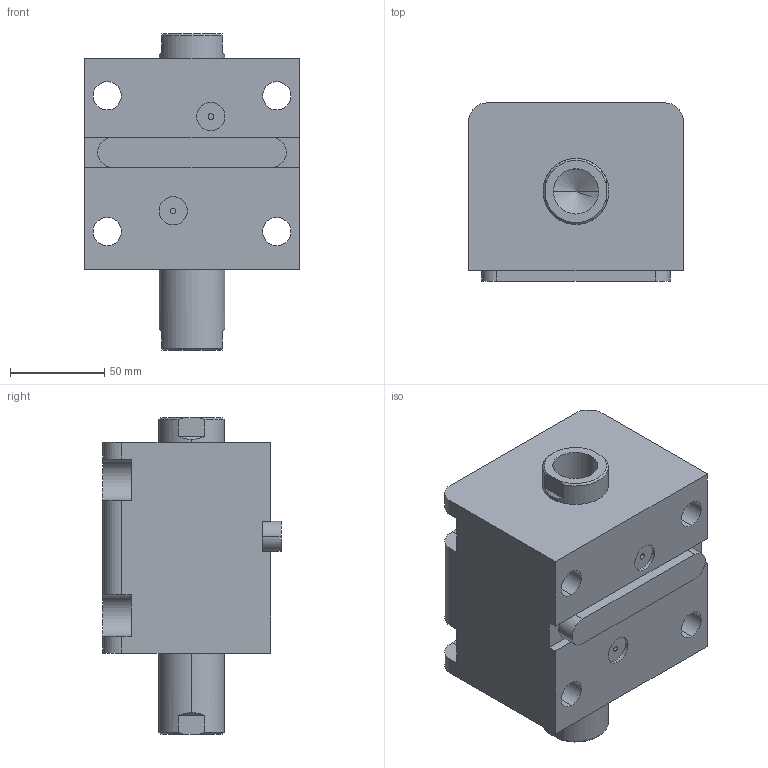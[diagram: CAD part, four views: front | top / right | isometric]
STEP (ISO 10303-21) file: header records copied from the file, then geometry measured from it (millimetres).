
FILE_DESCRIPTION (( 'STEP AP203' ), '1' );
FILE_NAME ('HTB-LWM63-30N.STEP', '2020-12-25T03:41:30', ( '微软用户' ), ( '微软中国' ), 'SwSTEP 2.0', 'SolidWorks 2012', '' );
FILE_SCHEMA (( 'CONFIG_CONTROL_DESIGN' ));
Length unit declared in the file: millimetre
Products named in the file (4): HTB-LWM63-30N; HTB-LWM63-30掛极; HTB-LWM63-瑩; HTB-LWM63-30N活塞杆
Assembly tree (3 placements, depth 2):
  HTB-LWM63-30N
    HTB-LWM63-30掛极
    HTB-LWM63-30N活塞杆
    HTB-LWM63-瑩
Bounding box: 114 x 94.5 x 168 mm (x, y, z)
Volume: 1013209.2 mm3; surface area: 137031.4 mm2
Topology: 3 solids, 3 shells, 105 faces, 261 edges, 168 vertices
Faces by surface type: cylinder 45, plane 44, torus 8, cone 8
Entity records: 3571 total; most frequent: CARTESIAN_POINT 592, DIRECTION 573, ORIENTED_EDGE 514, EDGE_CURVE 257, AXIS2_PLACEMENT_3D 221, VERTEX_POINT 168, LINE 131, VECTOR 131
